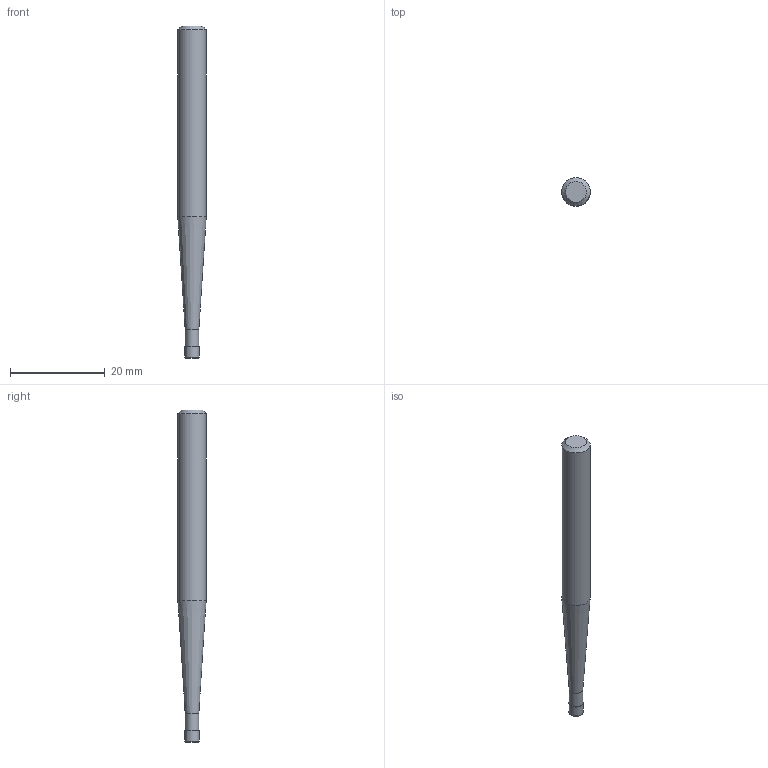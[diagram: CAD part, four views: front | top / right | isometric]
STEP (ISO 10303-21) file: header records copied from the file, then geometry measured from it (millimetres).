
FILE_DESCRIPTION((''),'2;1');
FILE_NAME('C:\Users\nsx150\AppData\Local\Temp\Mastercam 2021\YKS1SUSFZB\TEMP.step','2025-06-23T14:04:57',(''),(''),'STEP Write','Mastercam 2021 ... CNC Software, Inc.','');
FILE_SCHEMA(('AUTOMOTIVE_DESIGN'));
Length unit declared in the file: millimetre
Products named in the file (1): None
Bounding box: 6 x 6 x 70 mm (x, y, z)
Volume: 1555.6 mm3; surface area: 1184.4 mm2
Topology: 2 solids, 2 shells, 10 faces, 14 edges, 8 vertices
Faces by surface type: plane 4, cylinder 3, cone 2, torus 1
Full cylindrical faces by diameter (mm): 2.885 x1, 3 x1, 6 x1
Entity records: 232 total; most frequent: DIRECTION 40, CARTESIAN_POINT 28, AXIS2_PLACEMENT_3D 20, ORIENTED_EDGE 16, EDGE_LOOP 16, STYLED_ITEM 13, ADVANCED_FACE 10, FACE_BOUND 10
